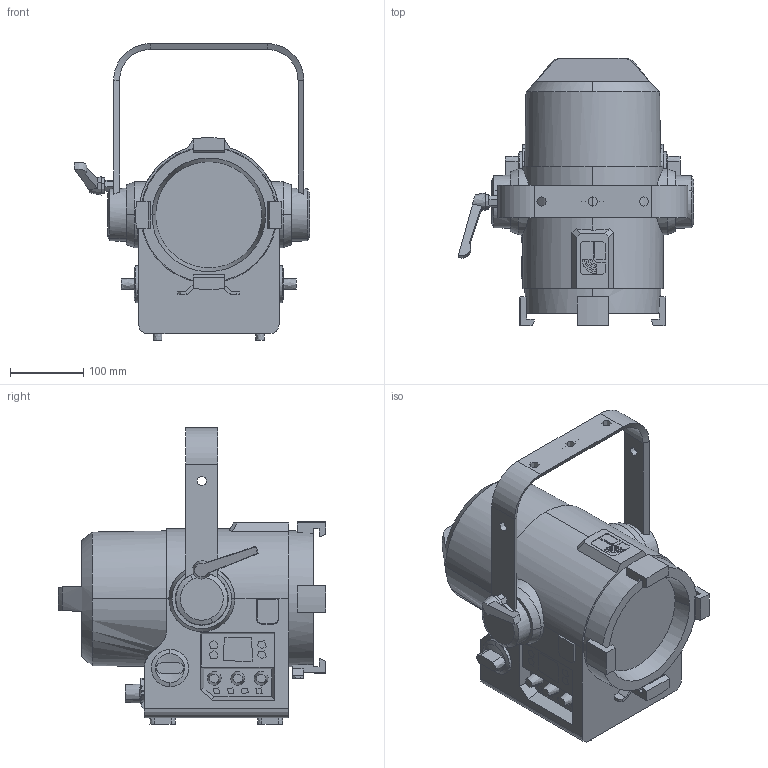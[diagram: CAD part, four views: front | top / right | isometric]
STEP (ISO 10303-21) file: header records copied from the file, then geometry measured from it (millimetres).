
FILE_DESCRIPTION(/* description */ (''),/* implementation_level */ '2;1');
FILE_NAME(/* name */ 'ROXX_ACT_F6_step',/* time_stamp */ '2025-12-05T12:59:13+01:00',/* author */ (''),/* organization */ (''),/* preprocessor_version */ 'ST-DEVELOPER v16.5',/* originating_system */ 'Rhino 7.38',/* authorisation */ '');
FILE_SCHEMA (('CONFIG_CONTROL_DESIGN'));
Length unit declared in the file: millimetre
Products named in the file (1): Document
Bounding box: 321.85 x 365.18 x 405.6 mm (x, y, z)
Volume: 12526436.9 mm3; surface area: 469739.6 mm2
Topology: 2 solids, 2 shells, 452 faces, 1204 edges, 786 vertices
Faces by surface type: plane 252, cylinder 118, bspline 82
Entity records: 13815 total; most frequent: CARTESIAN_POINT 6113, ORIENTED_EDGE 2400, EDGE_CURVE 1200, VERTEX_POINT 786, B_SPLINE_CURVE_WITH_KNOTS 702, EDGE_LOOP 500, ADVANCED_FACE 452, FACE_OUTER_BOUND 452
